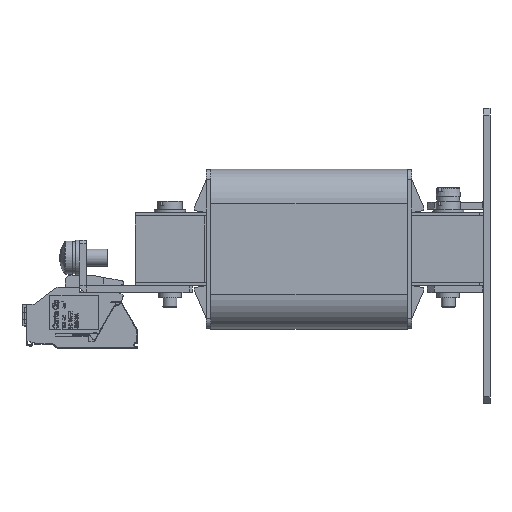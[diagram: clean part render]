
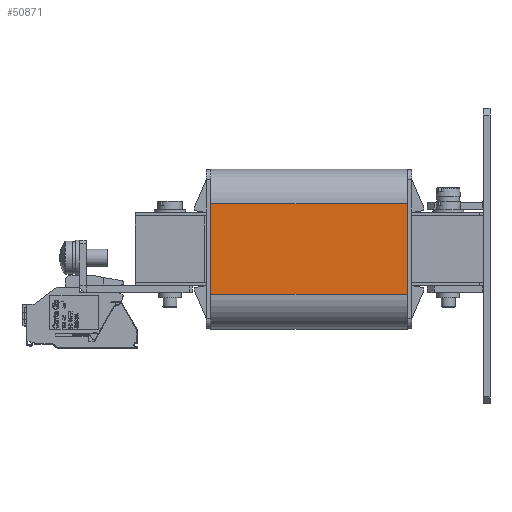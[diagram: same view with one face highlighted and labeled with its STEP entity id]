
A CAD part, left-side view. The second image highlights one B-rep face of the part: STEP entity #50871.
In plain terms, the highlighted planar face has unit normal (-1, 0, 0).
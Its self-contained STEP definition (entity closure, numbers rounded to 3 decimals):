
#3347 = EDGE_CURVE ( 'NONE', #15004, #71162, #57594, .T. ) ;
#9460 = DIRECTION ( 'NONE',  ( 0., -1., 0. ) ) ;
#12568 = VECTOR ( 'NONE', #25782, 1000. ) ;
#15004 = VERTEX_POINT ( 'NONE', #41501 ) ;
#15661 = ORIENTED_EDGE ( 'NONE', *, *, #84792, .T. ) ;
#17346 = VECTOR ( 'NONE', #25336, 1000. ) ;
#18221 = AXIS2_PLACEMENT_3D ( 'NONE', #26750, #62979, #20179 ) ;
#20179 = DIRECTION ( 'NONE',  ( 0., 0., -1. ) ) ;
#20210 = LINE ( 'NONE', #80096, #77320 ) ;
#21961 = ORIENTED_EDGE ( 'NONE', *, *, #32235, .T. ) ;
#25336 = DIRECTION ( 'NONE',  ( 0., 0., 1. ) ) ;
#25782 = DIRECTION ( 'NONE',  ( 0., 1., 0. ) ) ;
#26750 = CARTESIAN_POINT ( 'NONE',  ( 0., 56.6, 0. ) ) ;
#29292 = LINE ( 'NONE', #68627, #12568 ) ;
#29982 = DIRECTION ( 'NONE',  ( 0., 0., 1. ) ) ;
#32235 = EDGE_CURVE ( 'NONE', #81657, #15004, #75699, .T. ) ;
#32516 = CARTESIAN_POINT ( 'NONE',  ( 0., 0., 0. ) ) ;
#41501 = CARTESIAN_POINT ( 'NONE',  ( 0., 0., -36. ) ) ;
#46392 = EDGE_LOOP ( 'NONE', ( #61705, #21961, #75389, #15661 ) ) ;
#48836 = CARTESIAN_POINT ( 'NONE',  ( 0., 0., -10. ) ) ;
#50871 = ADVANCED_FACE ( 'NONE', ( #56784 ), #82823, .F. ) ;
#52260 = CARTESIAN_POINT ( 'NONE',  ( 0., 56.6, -36. ) ) ;
#56784 = FACE_OUTER_BOUND ( 'NONE', #46392, .T. ) ;
#57594 = LINE ( 'NONE', #32516, #17346 ) ;
#61705 = ORIENTED_EDGE ( 'NONE', *, *, #64268, .F. ) ;
#62979 = DIRECTION ( 'NONE',  ( 1., 0., 0. ) ) ;
#64268 = EDGE_CURVE ( 'NONE', #81657, #78066, #20210, .T. ) ;
#68627 = CARTESIAN_POINT ( 'NONE',  ( 0., 56.6, -10. ) ) ;
#71162 = VERTEX_POINT ( 'NONE', #48836 ) ;
#73473 = VECTOR ( 'NONE', #9460, 1000. ) ;
#75389 = ORIENTED_EDGE ( 'NONE', *, *, #3347, .T. ) ;
#75699 = LINE ( 'NONE', #52260, #73473 ) ;
#77320 = VECTOR ( 'NONE', #29982, 1000. ) ;
#78066 = VERTEX_POINT ( 'NONE', #81168 ) ;
#80096 = CARTESIAN_POINT ( 'NONE',  ( 0., 56.6, 0. ) ) ;
#81168 = CARTESIAN_POINT ( 'NONE',  ( 0., 56.6, -10. ) ) ;
#81657 = VERTEX_POINT ( 'NONE', #89031 ) ;
#82823 = PLANE ( 'NONE',  #18221 ) ;
#84792 = EDGE_CURVE ( 'NONE', #71162, #78066, #29292, .T. ) ;
#89031 = CARTESIAN_POINT ( 'NONE',  ( 0., 56.6, -36. ) ) ;
